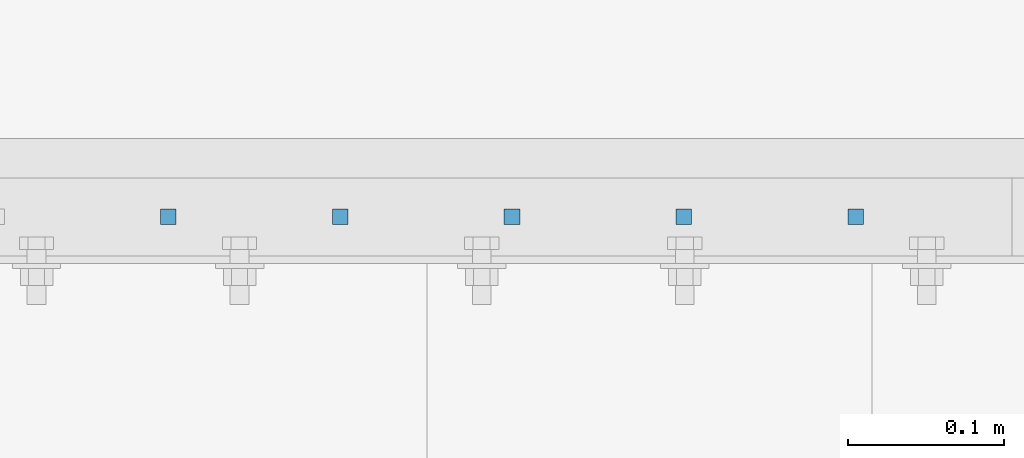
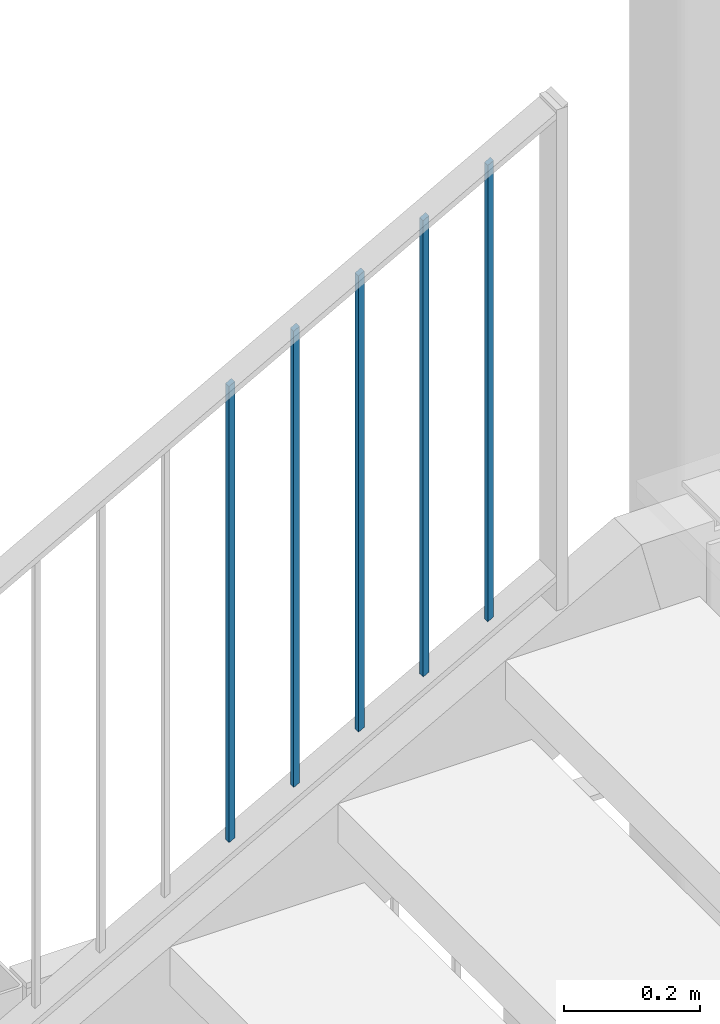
# One storey, part 53 of 78: 5 beams, 1 element without a shape of its own.
"""IFC2X3 building model written with IfcOpenShell, lengths in millimetres."""

from ifc_helpers import new_model, si_unit, frame, origin_with_axes, origin_2d_with_axis, place, context, subcontext, project, spatial, rectangle, extrude, clip, halfspace, material, type_object, element, aggregate, save


model = new_model("IFC2X3")

# Units and contexts
model_context = context("Model", 3, precision=1e-05, world=origin_with_axes())
body_context = subcontext(model_context, "Body", "Model", "MODEL_VIEW")
ifc_project = project(units=[si_unit("LENGTHUNIT", "METRE", prefix="MILLI"), si_unit("AREAUNIT", "SQUARE_METRE"), si_unit("VOLUMEUNIT", "CUBIC_METRE"), si_unit("MASSUNIT", "GRAM", prefix="KILO"), si_unit("TIMEUNIT", "SECOND"), si_unit("PLANEANGLEUNIT", "RADIAN"), si_unit("SOLIDANGLEUNIT", "STERADIAN"), si_unit("THERMODYNAMICTEMPERATUREUNIT", "DEGREE_CELSIUS"), si_unit("LUMINOUSINTENSITYUNIT", "LUMEN")], contexts=[model_context])

# Site, building, storey
site_placement = place(None, origin_with_axes())
site = spatial("IfcSite", under=ifc_project, at=site_placement, Name="Site", CompositionType="ELEMENT")
building_placement = place(site_placement, origin_with_axes())
building = spatial("IfcBuilding", under=site, at=building_placement, Name="Undefined", CompositionType="ELEMENT")
storey_placement = place(building_placement, origin_with_axes())
storey = spatial("IfcBuildingStorey", under=building, at=storey_placement, Name="Undefined", CompositionType="ELEMENT", Elevation=0.0)

# Assembly, beams
assembly_placement = place(storey_placement, origin_with_axes())
assembly = element("IfcElementAssembly", 1, at=assembly_placement, inside=storey, Name="MAIN_COURANTE", AssemblyPlace="NOTDEFINED", PredefinedType="RIGID_FRAME")
ifc_material = material(Name="STEEL/S235JR")
beam_type = type_object("IfcBeamType", Name="PL10*10", PredefinedType="NOTDEFINED")
beam_1_placement = place(assembly_placement, frame((622.994284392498, 30592.9999997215, 160487.824921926), z_axis=(0.0, -1.0, 0.0), x_axis=(0.0, 0.0, -1.0)))
beam_1 = element("IfcBeam", 2, at=beam_1_placement, type_object=beam_type, material=ifc_material, Name="LISSE", ObjectType="PL10*10", context=body_context, shape_type="Clipping", body=[
    clip(clip(extrude(rectangle(XDim=10.0, YDim=10.0, at=origin_2d_with_axis()), frame((831.449999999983, 0.0, 0.0), z_axis=(-1.0, 0.0, 0.0), x_axis=(0.0, -1.0, 0.0)), (0.0, 0.0, 1.0), 831.45), halfspace(frame((825.737291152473, 9.09494701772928e-13, 1005.0), z_axis=(0.87524153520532, 0.48368611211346, 0.0), x_axis=(-0.483686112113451, 0.875241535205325, 0.0)), False)), halfspace(frame((5.71270869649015, 9.09494701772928e-13, 1005.0), z_axis=(-0.875241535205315, -0.483686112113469, 0.0), x_axis=(0.48368611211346, -0.87524153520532, 0.0)), False)),
])
beam_2_placement = place(assembly_placement, frame((732.994284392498, 30592.9999997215, 160548.61439568), z_axis=(0.0, -1.0, 0.0), x_axis=(0.0, 0.0, -1.0)))
beam_2 = element("IfcBeam", 3, at=beam_2_placement, type_object=beam_type, material=ifc_material, Name="LISSE", ObjectType="PL10*10", context=body_context, shape_type="Clipping", body=[
    clip(clip(extrude(rectangle(XDim=10.0, YDim=10.0, at=origin_2d_with_axis()), frame((831.449999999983, 0.0, 0.0), z_axis=(-1.0, 0.0, 0.0), x_axis=(0.0, -1.0, 0.0)), (0.0, 0.0, 1.0), 831.45), halfspace(frame((825.737291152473, 9.09494701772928e-13, 1005.0), z_axis=(0.87524153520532, 0.48368611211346, 0.0), x_axis=(-0.483686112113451, 0.875241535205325, 0.0)), False)), halfspace(frame((5.71270869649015, 9.09494701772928e-13, 1005.0), z_axis=(-0.875241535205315, -0.483686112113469, 0.0), x_axis=(0.48368611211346, -0.87524153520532, 0.0)), False)),
])
beam_3_placement = place(assembly_placement, frame((842.994284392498, 30592.9999997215, 160609.403869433), z_axis=(0.0, -1.0, 0.0), x_axis=(0.0, 0.0, -1.0)))
beam_3 = element("IfcBeam", 4, at=beam_3_placement, type_object=beam_type, material=ifc_material, Name="LISSE", ObjectType="PL10*10", context=body_context, shape_type="Clipping", body=[
    clip(clip(extrude(rectangle(XDim=10.0, YDim=10.0, at=origin_2d_with_axis()), frame((831.449999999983, 0.0, 0.0), z_axis=(-1.0, 0.0, 0.0), x_axis=(0.0, -1.0, 0.0)), (0.0, 0.0, 1.0), 831.45), halfspace(frame((825.737291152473, 9.09494701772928e-13, 1005.0), z_axis=(0.87524153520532, 0.48368611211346, 0.0), x_axis=(-0.483686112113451, 0.875241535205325, 0.0)), False)), halfspace(frame((5.71270869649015, 9.09494701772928e-13, 1005.0), z_axis=(-0.875241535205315, -0.483686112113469, 0.0), x_axis=(0.48368611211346, -0.87524153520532, 0.0)), False)),
])
beam_4_placement = place(assembly_placement, frame((952.994284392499, 30592.9999997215, 160670.193343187), z_axis=(0.0, -1.0, 0.0), x_axis=(0.0, 0.0, -1.0)))
beam_4 = element("IfcBeam", 5, at=beam_4_placement, type_object=beam_type, material=ifc_material, Name="LISSE", ObjectType="PL10*10", context=body_context, shape_type="Clipping", body=[
    clip(clip(extrude(rectangle(XDim=10.0, YDim=10.0, at=origin_2d_with_axis()), frame((831.449999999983, 0.0, 0.0), z_axis=(-1.0, 0.0, 0.0), x_axis=(0.0, -1.0, 0.0)), (0.0, 0.0, 1.0), 831.45), halfspace(frame((825.737291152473, 9.09494701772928e-13, 1005.0), z_axis=(0.87524153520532, 0.48368611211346, 0.0), x_axis=(-0.483686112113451, 0.875241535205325, 0.0)), False)), halfspace(frame((5.71270869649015, 9.09494701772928e-13, 1005.0), z_axis=(-0.875241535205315, -0.483686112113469, 0.0), x_axis=(0.48368611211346, -0.87524153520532, 0.0)), False)),
])
beam_5_placement = place(assembly_placement, frame((1062.9942843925, 30592.9999997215, 160730.982816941), z_axis=(0.0, -1.0, 0.0), x_axis=(0.0, 0.0, -1.0)))
beam_5 = element("IfcBeam", 6, at=beam_5_placement, type_object=beam_type, material=ifc_material, Name="LISSE", ObjectType="PL10*10", context=body_context, shape_type="Clipping", body=[
    clip(clip(extrude(rectangle(XDim=10.0, YDim=10.0, at=origin_2d_with_axis()), frame((831.449999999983, 0.0, 0.0), z_axis=(-1.0, 0.0, 0.0), x_axis=(0.0, -1.0, 0.0)), (0.0, 0.0, 1.0), 831.45), halfspace(frame((825.737291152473, 9.09494701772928e-13, 1005.0), z_axis=(0.87524153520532, 0.48368611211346, 0.0), x_axis=(-0.483686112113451, 0.875241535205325, 0.0)), False)), halfspace(frame((5.71270869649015, 9.09494701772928e-13, 1005.0), z_axis=(-0.875241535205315, -0.483686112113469, 0.0), x_axis=(0.48368611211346, -0.87524153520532, 0.0)), False)),
])
aggregate(assembly, [beam_1, beam_2, beam_3, beam_4, beam_5])

save(model, "model.ifc")
